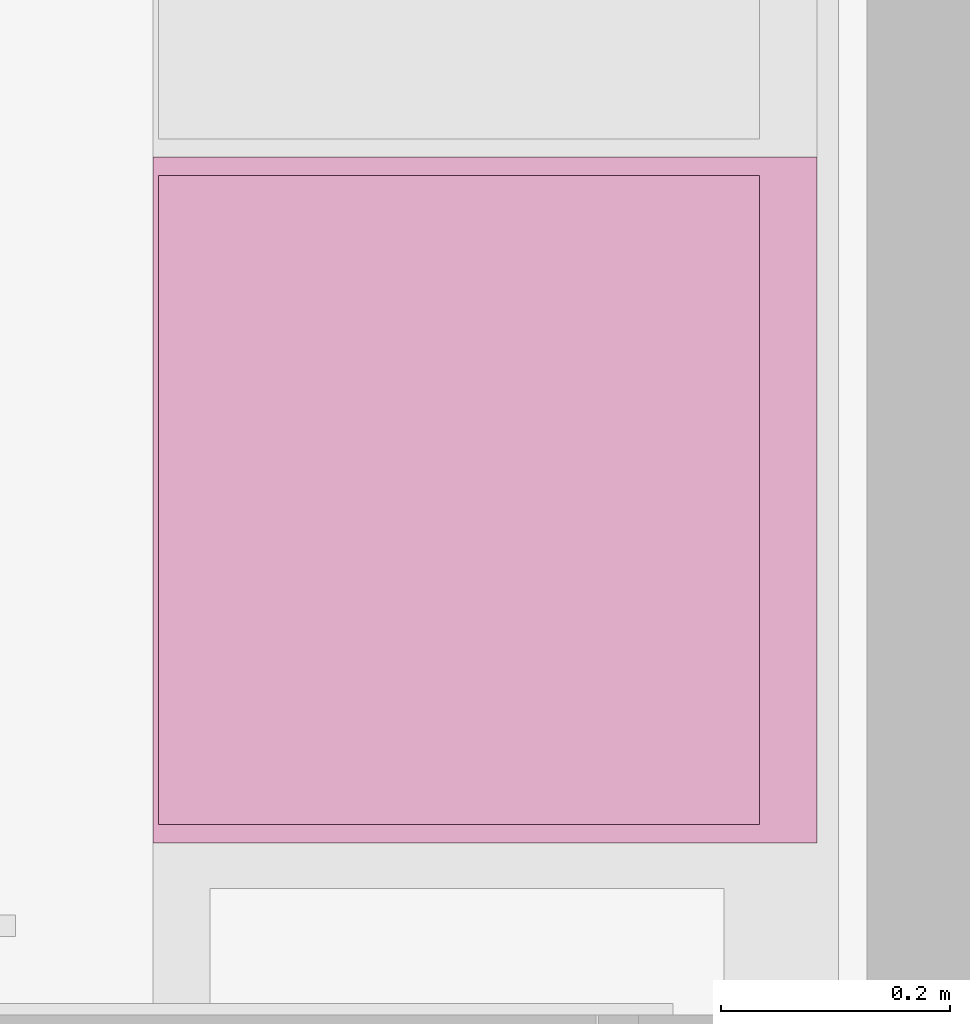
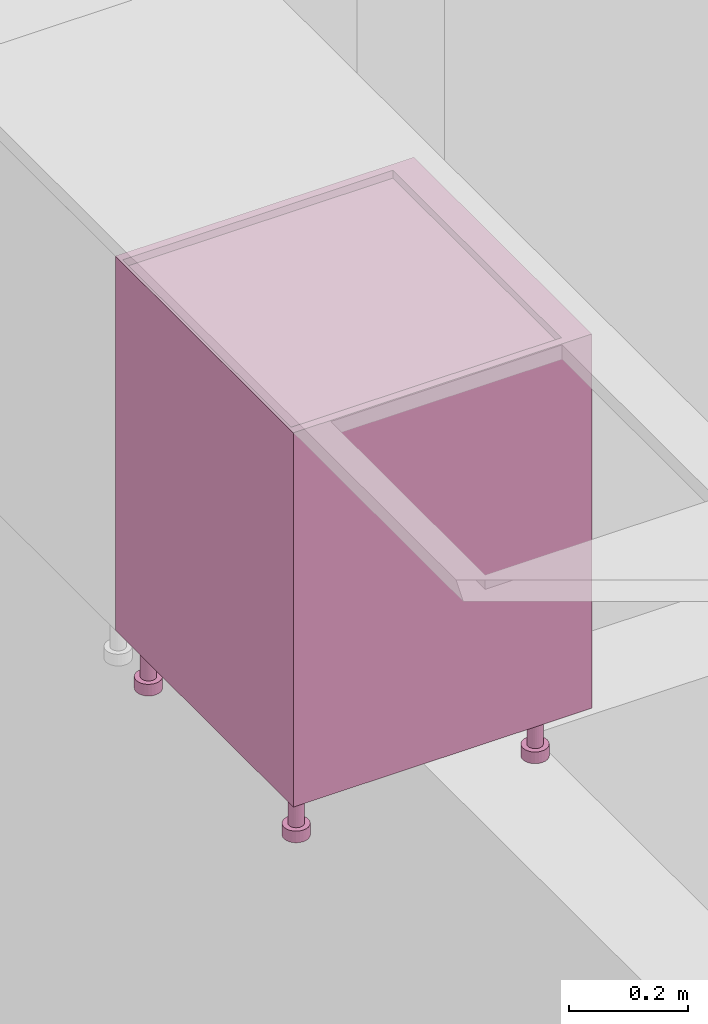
# One storey, part 26 of 68: 1 furnishing.
"""IFC2X3 building model written with IfcOpenShell, lengths in millimetres."""

from ifc_helpers import new_model, entity, si_unit, converted_unit, direction, frame, origin, place, context, subcontext, project, spatial, faceted_brep, source, transform, mapped, material, type_object, type_shapes, element, save


model = new_model("IFC2X3")

# Units and contexts
model_context = context("Model", 3, precision=0.01, world=origin(), true_north=direction((6.123233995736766e-17, 1.0)))
plan_context = context("Plan", 3, precision=0.01, world=origin(), true_north=direction((6.123233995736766e-17, 1.0)))
body_context = subcontext(model_context, "Body", "Model", "MODEL_VIEW")
ifc_project = project(units=[si_unit("LENGTHUNIT", "METRE", prefix="MILLI"), converted_unit("PLANEANGLEUNIT", "DEGREE", entity("IfcPlaneAngleMeasure", 0.017453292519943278), si_unit("PLANEANGLEUNIT", "RADIAN"), dimensions=[0, 0, 0, 0, 0, 0, 0]), si_unit("AREAUNIT", "SQUARE_METRE")], contexts=[model_context, plan_context])

# Site, building, storey, space
site_placement = place(None, origin())
site = spatial("IfcSite", under=ifc_project, at=site_placement, Name="Default", CompositionType="ELEMENT")
building_placement = place(site_placement, origin())
building = spatial("IfcBuilding", under=site, at=building_placement, CompositionType="ELEMENT")
storey_placement = place(building_placement, frame((0.0, 0.0, 6295.0)))
storey = spatial("IfcBuildingStorey", under=building, at=storey_placement, Name="3K", CompositionType="ELEMENT", Elevation=6294.999999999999)
space_placement = place(storey_placement, origin())
space = spatial("IfcSpace", under=storey, at=space_placement, Name="3-5.2", CompositionType="ELEMENT", InteriorOrExteriorSpace="INTERNAL")

# Furnishing
ifc_material = material(Name="<Unnamed>")
furniture_type = type_object("IfcFurnitureType", Name="HR_Casework_Kitchen_Generic_Appliance_v1:Dishwasher", AssemblyPlace="NOTDEFINED", material=ifc_material)
shared_shape = source(origin(), body_context, "Body", "Brep", [
    faceted_brep([(305.7003264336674, -585.7846096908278, -3101.0), (310.6708891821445, -581.9705627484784, -3101.0), (300.70032643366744, -577.1243556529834, -3101.0), (297.32379306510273, -578.5229615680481, -3101.0), (299.91198351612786, -588.1822198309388, -3101.0), (303.59982137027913, -574.8994949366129, -3101.0), (314.4849361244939, -577.0, -3101.0), (305.82468208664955, -572.0, -3101.0), (307.2232880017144, -568.6234666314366, -3101.0), (316.8825462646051, -571.2116570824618, -3101.0), (307.70032643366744, -565.0, -3101.0), (317.7003264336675, -565.0, -3101.0), (307.2232880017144, -561.3765333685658, -3101.0), (316.88254626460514, -558.7883429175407, -3101.0), (305.82468208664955, -558.0, -3101.0), (314.484936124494, -553.0, -3101.0), (303.59982137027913, -555.1005050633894, -3101.0), (310.67088918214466, -548.0294372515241, -3101.0), (300.70032643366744, -552.875644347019, -3101.0), (305.7003264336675, -544.2153903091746, -3101.0), (297.32379306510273, -551.4770384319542, -3101.0), (299.91198351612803, -541.8177801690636, -3101.0), (293.7003264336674, -551.0, -3101.0), (293.70032643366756, -541.0, -3101.0), (290.07685980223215, -551.4770384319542, -3101.0), (287.488669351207, -541.8177801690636, -3101.0), (286.70032643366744, -552.875644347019, -3101.0), (281.7003264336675, -544.2153903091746, -3101.0), (283.80083149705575, -555.1005050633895, -3101.0), (276.7297636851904, -548.029437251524, -3101.0), (281.5759707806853, -558.0, -3101.0), (272.91571674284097, -553.0, -3101.0), (270.51810660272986, -558.7883429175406, -3101.0), (280.1773648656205, -561.3765333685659, -3101.0), (269.7003264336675, -565.0, -3101.0), (279.7003264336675, -565.0, -3101.0), (270.51810660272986, -571.2116570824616, -3101.0), (280.1773648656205, -568.6234666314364, -3101.0), (272.9157167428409, -577.0, -3101.0), (281.57597078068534, -572.0, -3101.0), (276.7297636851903, -581.9705627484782, -3101.0), (283.80083149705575, -574.8994949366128, -3101.0), (281.70032643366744, -585.7846096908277, -3101.0), (286.70032643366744, -577.1243556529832, -3101.0), (287.4886693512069, -588.1822198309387, -3101.0), (290.07685980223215, -578.5229615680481, -3101.0), (293.7003264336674, -589.0, -3101.0), (293.70032643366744, -579.0, -3101.0), (299.91198351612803, -541.8177801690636, -3125.0), (305.7003264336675, -544.2153903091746, -3125.0), (310.67088918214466, -548.0294372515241, -3125.0), (314.484936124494, -553.0, -3125.0), (316.88254626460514, -558.7883429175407, -3125.0), (317.7003264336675, -565.0, -3125.0), (316.8825462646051, -571.2116570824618, -3125.0), (314.4849361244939, -577.0, -3125.0), (310.6708891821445, -581.9705627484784, -3125.0), (305.7003264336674, -585.7846096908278, -3125.0), (299.91198351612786, -588.1822198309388, -3125.0), (293.7003264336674, -589.0, -3125.0), (287.4886693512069, -588.1822198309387, -3125.0), (281.70032643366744, -585.7846096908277, -3125.0), (276.7297636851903, -581.9705627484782, -3125.0), (272.9157167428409, -577.0, -3125.0), (270.51810660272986, -571.2116570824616, -3125.0), (269.7003264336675, -565.0, -3125.0), (270.51810660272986, -558.7883429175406, -3125.0), (272.91571674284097, -553.0, -3125.0), (276.7297636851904, -548.029437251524, -3125.0), (281.7003264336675, -544.2153903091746, -3125.0), (287.488669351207, -541.8177801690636, -3125.0), (293.70032643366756, -541.0, -3125.0), (297.32379306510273, -578.5229615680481, -3025.0), (300.70032643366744, -577.1243556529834, -3025.0), (303.59982137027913, -574.8994949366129, -3025.0), (305.8246820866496, -572.0, -3025.0), (307.2232880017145, -568.6234666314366, -3025.0), (307.70032643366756, -565.0, -3025.0), (307.2232880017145, -561.3765333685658, -3025.0), (305.8246820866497, -558.0, -3025.0), (303.5998213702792, -555.1005050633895, -3025.0), (300.70032643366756, -552.875644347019, -3025.0), (297.32379306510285, -551.4770384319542, -3025.0), (293.70032643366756, -551.0, -3025.0), (290.07685980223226, -551.4770384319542, -3025.0), (286.70032643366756, -552.875644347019, -3025.0), (283.80083149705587, -555.1005050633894, -3025.0), (281.5759707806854, -558.0, -3025.0), (280.1773648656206, -561.3765333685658, -3025.0), (279.70032643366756, -565.0, -3025.0), (280.1773648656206, -568.6234666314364, -3025.0), (281.5759707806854, -572.0, -3025.0), (283.8008314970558, -574.8994949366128, -3025.0), (286.7003264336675, -577.1243556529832, -3025.0), (290.07685980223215, -578.5229615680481, -3025.0), (293.70032643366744, -579.0, -3025.0)], [[[0, 1, 2]], [[0, 2, 3]], [[3, 4, 0]], [[2, 1, 5]], [[6, 5, 1]], [[7, 5, 6]], [[8, 7, 6]], [[8, 6, 9]], [[8, 9, 10]], [[10, 9, 11]], [[12, 10, 11]], [[12, 11, 13]], [[14, 12, 13]], [[14, 13, 15]], [[16, 14, 15]], [[15, 17, 16]], [[17, 18, 16]], [[18, 17, 19]], [[18, 19, 20]], [[21, 20, 19]], [[20, 21, 22]], [[22, 21, 23]], [[23, 24, 22]], [[24, 23, 25]], [[24, 25, 26]], [[27, 26, 25]], [[27, 28, 26]], [[27, 29, 28]], [[30, 28, 29]], [[31, 30, 29]], [[32, 30, 31]], [[33, 30, 32]], [[33, 32, 34]], [[34, 35, 33]], [[36, 35, 34]], [[36, 37, 35]], [[37, 36, 38]], [[39, 37, 38]], [[39, 38, 40]], [[39, 40, 41]], [[40, 42, 41]], [[41, 42, 43]], [[43, 42, 44]], [[44, 45, 43]], [[46, 45, 44]], [[4, 47, 46]], [[45, 46, 47]], [[4, 3, 47]], [[48, 49, 50, 51, 52, 53, 54, 55, 56, 57, 58, 59, 60, 61, 62, 63, 64, 65, 66, 67, 68, 69, 70, 71]], [[64, 36, 34, 65]], [[63, 38, 36, 64]], [[42, 40, 62, 61]], [[63, 62, 40, 38]], [[44, 42, 61, 60]], [[46, 44, 60, 59]], [[58, 4, 46, 59]], [[57, 0, 4, 58]], [[54, 53, 11, 9]], [[1, 0, 57, 56]], [[6, 55, 54, 9]], [[6, 1, 56, 55]], [[52, 13, 11, 53]], [[51, 15, 13, 52]], [[19, 17, 50, 49]], [[51, 50, 17, 15]], [[21, 19, 49, 48]], [[23, 21, 48, 71]], [[27, 69, 68, 29]], [[31, 67, 66, 32]], [[68, 67, 31, 29]], [[32, 66, 65, 34]], [[25, 70, 69, 27]], [[70, 25, 23, 71]], [[72, 73, 74, 75, 76, 77, 78, 79, 80, 81, 82, 83, 84, 85, 86, 87, 88, 89, 90, 91, 92, 93, 94, 95]], [[37, 39, 91, 90]], [[35, 37, 90, 89]], [[43, 45, 94, 93]], [[41, 43, 93, 92]], [[39, 41, 92, 91]], [[47, 95, 94, 45]], [[2, 5, 74, 73]], [[3, 2, 73, 72]], [[8, 10, 77, 76]], [[7, 8, 76, 75]], [[5, 7, 75, 74]], [[3, 72, 95, 47]], [[79, 78, 12, 14]], [[78, 77, 10, 12]], [[80, 16, 18, 81]], [[16, 80, 79, 14]], [[81, 18, 20, 82]], [[22, 83, 82, 20]], [[26, 28, 86, 85]], [[24, 26, 85, 84]], [[33, 35, 89, 88]], [[30, 33, 88, 87]], [[28, 30, 87, 86]], [[24, 84, 83, 22]]]),
    faceted_brep([(-192.29967356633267, -585.7846096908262, -3101.0), (-187.3291108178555, -581.9705627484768, -3101.0), (-197.29967356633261, -577.1243556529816, -3101.0), (-200.67620693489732, -578.5229615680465, -3101.0), (-198.08801648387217, -588.1822198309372, -3101.0), (-194.40017862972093, -574.8994949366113, -3101.0), (-183.51506387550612, -577.0, -3101.0), (-192.17531791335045, -572.0, -3101.0), (-190.77671199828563, -568.6234666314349, -3101.0), (-181.11745373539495, -571.2116570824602, -3101.0), (-190.29967356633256, -565.0, -3101.0), (-180.29967356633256, -565.0, -3101.0), (-190.77671199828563, -561.3765333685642, -3101.0), (-181.11745373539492, -558.788342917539, -3101.0), (-192.17531791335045, -558.0, -3101.0), (-183.515063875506, -553.0, -3101.0), (-194.40017862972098, -555.1005050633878, -3101.0), (-187.3291108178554, -548.0294372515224, -3101.0), (-197.29967356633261, -552.8756443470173, -3101.0), (-192.29967356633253, -544.215390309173, -3101.0), (-200.67620693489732, -551.4770384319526, -3101.0), (-198.08801648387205, -541.8177801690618, -3101.0), (-204.29967356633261, -551.0, -3101.0), (-204.29967356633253, -541.0, -3101.0), (-207.92314019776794, -551.4770384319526, -3101.0), (-210.51133064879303, -541.8177801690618, -3101.0), (-211.29967356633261, -552.8756443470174, -3101.0), (-216.29967356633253, -544.215390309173, -3101.0), (-214.19916850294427, -555.1005050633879, -3101.0), (-221.27023631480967, -548.0294372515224, -3101.0), (-216.42402921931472, -558.0, -3101.0), (-225.08428325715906, -553.0, -3101.0), (-227.48189339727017, -558.788342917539, -3101.0), (-217.8226351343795, -561.3765333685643, -3101.0), (-228.2996735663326, -565.0, -3101.0), (-218.29967356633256, -565.0, -3101.0), (-227.48189339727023, -571.21165708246, -3101.0), (-217.8226351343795, -568.6234666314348, -3101.0), (-225.08428325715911, -577.0, -3101.0), (-216.42402921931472, -572.0, -3101.0), (-221.27023631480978, -581.9705627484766, -3101.0), (-214.19916850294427, -574.8994949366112, -3101.0), (-216.29967356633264, -585.784609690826, -3101.0), (-211.29967356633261, -577.1243556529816, -3101.0), (-210.51133064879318, -588.1822198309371, -3101.0), (-207.9231401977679, -578.5229615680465, -3101.0), (-204.2996735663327, -589.0, -3101.0), (-204.29967356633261, -579.0, -3101.0), (-198.08801648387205, -541.8177801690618, -3125.0), (-192.29967356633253, -544.215390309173, -3125.0), (-187.3291108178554, -548.0294372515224, -3125.0), (-183.515063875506, -553.0, -3125.0), (-181.11745373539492, -558.788342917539, -3125.0), (-180.29967356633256, -565.0, -3125.0), (-181.11745373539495, -571.2116570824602, -3125.0), (-183.51506387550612, -577.0, -3125.0), (-187.3291108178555, -581.9705627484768, -3125.0), (-192.29967356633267, -585.7846096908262, -3125.0), (-198.08801648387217, -588.1822198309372, -3125.0), (-204.2996735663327, -589.0, -3125.0), (-210.51133064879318, -588.1822198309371, -3125.0), (-216.29967356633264, -585.784609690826, -3125.0), (-221.27023631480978, -581.9705627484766, -3125.0), (-225.08428325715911, -577.0, -3125.0), (-227.48189339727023, -571.21165708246, -3125.0), (-228.2996735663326, -565.0, -3125.0), (-227.48189339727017, -558.788342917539, -3125.0), (-225.08428325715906, -553.0, -3125.0), (-221.27023631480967, -548.0294372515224, -3125.0), (-216.29967356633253, -544.215390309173, -3125.0), (-210.51133064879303, -541.8177801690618, -3125.0), (-204.29967356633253, -541.0, -3125.0), (-200.67620693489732, -578.5229615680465, -3025.0), (-197.29967356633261, -577.1243556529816, -3025.0), (-194.40017862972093, -574.8994949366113, -3025.0), (-192.17531791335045, -572.0, -3025.0), (-190.77671199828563, -568.6234666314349, -3025.0), (-190.29967356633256, -565.0, -3025.0), (-190.77671199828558, -561.3765333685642, -3025.0), (-192.1753179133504, -558.0, -3025.0), (-194.40017862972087, -555.1005050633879, -3025.0), (-197.29967356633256, -552.8756443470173, -3025.0), (-200.67620693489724, -551.4770384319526, -3025.0), (-204.29967356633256, -551.0, -3025.0), (-207.92314019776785, -551.4770384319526, -3025.0), (-211.29967356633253, -552.8756443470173, -3025.0), (-214.1991685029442, -555.1005050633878, -3025.0), (-216.4240292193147, -558.0, -3025.0), (-217.8226351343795, -561.3765333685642, -3025.0), (-218.29967356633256, -565.0, -3025.0), (-217.8226351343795, -568.6234666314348, -3025.0), (-216.42402921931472, -572.0, -3025.0), (-214.19916850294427, -574.8994949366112, -3025.0), (-211.2996735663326, -577.1243556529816, -3025.0), (-207.9231401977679, -578.5229615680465, -3025.0), (-204.29967356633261, -579.0, -3025.0)], [[[0, 1, 2]], [[0, 2, 3]], [[3, 4, 0]], [[2, 1, 5]], [[6, 5, 1]], [[7, 5, 6]], [[8, 7, 6]], [[8, 6, 9]], [[8, 9, 10]], [[10, 9, 11]], [[12, 10, 11]], [[12, 11, 13]], [[14, 12, 13]], [[14, 13, 15]], [[16, 14, 15]], [[15, 17, 16]], [[17, 18, 16]], [[18, 17, 19]], [[18, 19, 20]], [[21, 20, 19]], [[20, 21, 22]], [[22, 21, 23]], [[23, 24, 22]], [[24, 23, 25]], [[24, 25, 26]], [[27, 26, 25]], [[27, 28, 26]], [[27, 29, 28]], [[30, 28, 29]], [[31, 30, 29]], [[32, 30, 31]], [[33, 30, 32]], [[33, 32, 34]], [[34, 35, 33]], [[36, 35, 34]], [[36, 37, 35]], [[37, 36, 38]], [[39, 37, 38]], [[39, 38, 40]], [[39, 40, 41]], [[40, 42, 41]], [[41, 42, 43]], [[43, 42, 44]], [[44, 45, 43]], [[46, 45, 44]], [[4, 47, 46]], [[45, 46, 47]], [[4, 3, 47]], [[48, 49, 50, 51, 52, 53, 54, 55, 56, 57, 58, 59, 60, 61, 62, 63, 64, 65, 66, 67, 68, 69, 70, 71]], [[64, 36, 34, 65]], [[63, 38, 36, 64]], [[42, 40, 62, 61]], [[63, 62, 40, 38]], [[44, 42, 61, 60]], [[46, 44, 60, 59]], [[58, 4, 46, 59]], [[57, 0, 4, 58]], [[54, 53, 11, 9]], [[1, 0, 57, 56]], [[6, 55, 54, 9]], [[6, 1, 56, 55]], [[52, 13, 11, 53]], [[51, 15, 13, 52]], [[19, 17, 50, 49]], [[51, 50, 17, 15]], [[21, 19, 49, 48]], [[23, 21, 48, 71]], [[27, 69, 68, 29]], [[31, 67, 66, 32]], [[68, 67, 31, 29]], [[32, 66, 65, 34]], [[25, 70, 69, 27]], [[70, 25, 23, 71]], [[72, 73, 74, 75, 76, 77, 78, 79, 80, 81, 82, 83, 84, 85, 86, 87, 88, 89, 90, 91, 92, 93, 94, 95]], [[37, 39, 91, 90]], [[35, 37, 90, 89]], [[43, 45, 94, 93]], [[41, 43, 93, 92]], [[39, 41, 92, 91]], [[47, 95, 94, 45]], [[2, 5, 74, 73]], [[3, 2, 73, 72]], [[8, 10, 77, 76]], [[7, 8, 76, 75]], [[5, 7, 75, 74]], [[3, 72, 95, 47]], [[79, 78, 12, 14]], [[78, 77, 10, 12]], [[80, 16, 18, 81]], [[16, 80, 79, 14]], [[81, 18, 20, 82]], [[22, 83, 82, 20]], [[26, 28, 86, 85]], [[24, 26, 85, 84]], [[33, 35, 89, 88]], [[30, 33, 88, 87]], [[28, 30, 87, 86]], [[24, 84, 83, 22]]]),
    faceted_brep([(305.70032643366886, -120.78460969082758, -3101.0), (310.670889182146, -116.97056274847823, -3101.0), (300.7003264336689, -112.12435565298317, -3101.0), (297.3237930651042, -113.52296156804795, -3101.0), (299.91198351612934, -123.18221983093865, -3101.0), (303.5998213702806, -109.8994949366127, -3101.0), (314.48493612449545, -112.0, -3101.0), (305.824682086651, -107.0, -3101.0), (307.2232880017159, -103.62346663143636, -3101.0), (316.88254626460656, -106.21165708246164, -3101.0), (307.700326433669, -100.0, -3101.0), (317.700326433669, -100.0, -3101.0), (307.2232880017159, -96.3765333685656, -3101.0), (316.8825462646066, -93.78834291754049, -3101.0), (305.824682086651, -93.0, -3101.0), (314.4849361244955, -88.0, -3101.0), (303.5998213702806, -90.10050506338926, -3101.0), (310.67088918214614, -83.02943725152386, -3101.0), (300.7003264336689, -87.8756443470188, -3101.0), (305.700326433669, -79.21539030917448, -3101.0), (297.3237930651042, -86.477038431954, -3101.0), (299.9119835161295, -76.81778016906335, -3101.0), (293.70032643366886, -86.0, -3101.0), (293.70032643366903, -76.0, -3101.0), (290.0768598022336, -86.47703843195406, -3101.0), (287.4886693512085, -76.81778016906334, -3101.0), (286.7003264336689, -87.87564434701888, -3101.0), (281.700326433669, -79.21539030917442, -3101.0), (283.8008314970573, -90.10050506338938, -3101.0), (276.72976368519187, -83.0294372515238, -3101.0), (281.5759707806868, -93.0, -3101.0), (272.91571674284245, -88.0, -3101.0), (270.51810660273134, -93.78834291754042, -3101.0), (280.177364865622, -96.37653336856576, -3101.0), (269.700326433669, -100.0, -3101.0), (279.700326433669, -100.0, -3101.0), (270.51810660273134, -106.2116570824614, -3101.0), (280.177364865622, -103.62346663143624, -3101.0), (272.9157167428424, -112.0, -3101.0), (281.5759707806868, -107.0, -3101.0), (276.72976368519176, -116.97056274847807, -3101.0), (283.8008314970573, -109.89949493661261, -3101.0), (281.7003264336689, -120.78460969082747, -3101.0), (286.7003264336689, -112.1243556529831, -3101.0), (287.4886693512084, -123.1822198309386, -3101.0), (290.0768598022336, -113.52296156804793, -3101.0), (293.70032643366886, -124.0, -3101.0), (293.7003264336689, -114.0, -3101.0), (299.9119835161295, -76.81778016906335, -3125.0), (305.700326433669, -79.21539030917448, -3125.0), (310.67088918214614, -83.02943725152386, -3125.0), (314.4849361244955, -88.0, -3125.0), (316.8825462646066, -93.78834291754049, -3125.0), (317.700326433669, -100.0, -3125.0), (316.88254626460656, -106.21165708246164, -3125.0), (314.48493612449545, -112.0, -3125.0), (310.670889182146, -116.97056274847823, -3125.0), (305.70032643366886, -120.78460969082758, -3125.0), (299.91198351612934, -123.18221983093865, -3125.0), (293.70032643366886, -124.0, -3125.0), (287.4886693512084, -123.1822198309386, -3125.0), (281.7003264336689, -120.78460969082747, -3125.0), (276.72976368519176, -116.97056274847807, -3125.0), (272.9157167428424, -112.0, -3125.0), (270.51810660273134, -106.2116570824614, -3125.0), (269.700326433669, -100.0, -3125.0), (270.51810660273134, -93.78834291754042, -3125.0), (272.91571674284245, -88.0, -3125.0), (276.72976368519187, -83.0294372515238, -3125.0), (281.700326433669, -79.21539030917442, -3125.0), (287.4886693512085, -76.81778016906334, -3125.0), (293.70032643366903, -76.0, -3125.0), (297.32379306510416, -113.52296156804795, -3025.0), (300.70032643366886, -112.12435565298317, -3025.0), (303.59982137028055, -109.8994949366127, -3025.0), (305.824682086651, -107.0, -3025.0), (307.22328800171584, -103.62346663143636, -3025.0), (307.700326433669, -100.0, -3025.0), (307.2232880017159, -96.3765333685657, -3025.0), (305.82468208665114, -93.0, -3025.0), (303.5998213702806, -90.10050506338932, -3025.0), (300.700326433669, -87.87564434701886, -3025.0), (297.32379306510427, -86.47703843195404, -3025.0), (293.700326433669, -86.0, -3025.0), (290.0768598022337, -86.47703843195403, -3025.0), (286.700326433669, -87.87564434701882, -3025.0), (283.8008314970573, -90.1005050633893, -3025.0), (281.5759707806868, -93.0, -3025.0), (280.177364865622, -96.37653336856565, -3025.0), (279.700326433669, -100.0, -3025.0), (280.177364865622, -103.62346663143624, -3025.0), (281.5759707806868, -107.0, -3025.0), (283.80083149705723, -109.89949493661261, -3025.0), (286.7003264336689, -112.1243556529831, -3025.0), (290.07685980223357, -113.52296156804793, -3025.0), (293.70032643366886, -114.0, -3025.0)], [[[0, 1, 2]], [[0, 2, 3]], [[3, 4, 0]], [[2, 1, 5]], [[6, 5, 1]], [[7, 5, 6]], [[8, 7, 6]], [[8, 6, 9]], [[8, 9, 10]], [[10, 9, 11]], [[12, 10, 11]], [[12, 11, 13]], [[14, 12, 13]], [[14, 13, 15]], [[16, 14, 15]], [[15, 17, 16]], [[17, 18, 16]], [[18, 17, 19]], [[18, 19, 20]], [[21, 20, 19]], [[20, 21, 22]], [[22, 21, 23]], [[23, 24, 22]], [[24, 23, 25]], [[24, 25, 26]], [[27, 26, 25]], [[27, 28, 26]], [[27, 29, 28]], [[30, 28, 29]], [[31, 30, 29]], [[32, 30, 31]], [[33, 30, 32]], [[33, 32, 34]], [[34, 35, 33]], [[36, 35, 34]], [[36, 37, 35]], [[37, 36, 38]], [[39, 37, 38]], [[39, 38, 40]], [[39, 40, 41]], [[40, 42, 41]], [[41, 42, 43]], [[43, 42, 44]], [[44, 45, 43]], [[46, 45, 44]], [[4, 47, 46]], [[45, 46, 47]], [[4, 3, 47]], [[48, 49, 50, 51, 52, 53, 54, 55, 56, 57, 58, 59, 60, 61, 62, 63, 64, 65, 66, 67, 68, 69, 70, 71]], [[64, 36, 34, 65]], [[63, 38, 36, 64]], [[42, 40, 62, 61]], [[63, 62, 40, 38]], [[44, 42, 61, 60]], [[46, 44, 60, 59]], [[58, 4, 46, 59]], [[57, 0, 4, 58]], [[54, 53, 11, 9]], [[1, 0, 57, 56]], [[6, 55, 54, 9]], [[6, 1, 56, 55]], [[52, 13, 11, 53]], [[51, 15, 13, 52]], [[19, 17, 50, 49]], [[51, 50, 17, 15]], [[21, 19, 49, 48]], [[23, 21, 48, 71]], [[27, 69, 68, 29]], [[31, 67, 66, 32]], [[68, 67, 31, 29]], [[32, 66, 65, 34]], [[25, 70, 69, 27]], [[70, 25, 23, 71]], [[72, 73, 74, 75, 76, 77, 78, 79, 80, 81, 82, 83, 84, 85, 86, 87, 88, 89, 90, 91, 92, 93, 94, 95]], [[37, 39, 91, 90]], [[35, 37, 90, 89]], [[43, 45, 94, 93]], [[41, 43, 93, 92]], [[39, 41, 92, 91]], [[47, 95, 94, 45]], [[2, 5, 74, 73]], [[3, 2, 73, 72]], [[8, 10, 77, 76]], [[7, 8, 76, 75]], [[5, 7, 75, 74]], [[3, 72, 95, 47]], [[79, 78, 12, 14]], [[78, 77, 10, 12]], [[80, 16, 18, 81]], [[16, 80, 79, 14]], [[81, 18, 20, 82]], [[22, 83, 82, 20]], [[26, 28, 86, 85]], [[24, 26, 85, 84]], [[33, 35, 89, 88]], [[30, 33, 88, 87]], [[28, 30, 87, 86]], [[24, 84, 83, 22]]]),
    faceted_brep([(-192.299673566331, -120.78460969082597, -3101.0), (-187.3291108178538, -116.97056274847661, -3101.0), (-197.29967356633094, -112.12435565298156, -3101.0), (-200.67620693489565, -113.52296156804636, -3101.0), (-198.0880164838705, -123.18221983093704, -3101.0), (-194.40017862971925, -109.89949493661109, -3101.0), (-183.5150638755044, -112.0, -3101.0), (-192.17531791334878, -107.0, -3101.0), (-190.77671199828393, -103.62346663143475, -3101.0), (-181.11745373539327, -106.21165708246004, -3101.0), (-190.29967356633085, -100.0, -3101.0), (-180.29967356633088, -100.0, -3101.0), (-190.77671199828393, -96.376533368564, -3101.0), (-181.11745373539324, -93.78834291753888, -3101.0), (-192.17531791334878, -93.0, -3101.0), (-183.51506387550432, -88.0, -3101.0), (-194.40017862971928, -90.10050506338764, -3101.0), (-187.32911081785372, -83.02943725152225, -3101.0), (-197.29967356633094, -87.8756443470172, -3101.0), (-192.29967356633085, -79.21539030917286, -3101.0), (-200.67620693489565, -86.4770384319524, -3101.0), (-198.08801648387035, -76.81778016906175, -3101.0), (-204.29967356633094, -86.0, -3101.0), (-204.29967356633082, -76.0, -3101.0), (-207.92314019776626, -86.47703843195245, -3101.0), (-210.51133064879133, -76.81778016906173, -3101.0), (-211.29967356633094, -87.87564434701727, -3101.0), (-216.29967356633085, -79.21539030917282, -3101.0), (-214.19916850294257, -90.10050506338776, -3101.0), (-221.270236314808, -83.0294372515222, -3101.0), (-216.424029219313, -93.0, -3101.0), (-225.08428325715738, -88.0, -3101.0), (-227.4818933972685, -93.78834291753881, -3101.0), (-217.82263513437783, -96.37653336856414, -3101.0), (-228.29967356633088, -100.0, -3101.0), (-218.29967356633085, -100.0, -3101.0), (-227.48189339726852, -106.2116570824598, -3101.0), (-217.82263513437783, -103.62346663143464, -3101.0), (-225.08428325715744, -112.0, -3101.0), (-216.424029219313, -107.0, -3101.0), (-221.27023631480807, -116.97056274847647, -3101.0), (-214.19916850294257, -109.899494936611, -3101.0), (-216.29967356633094, -120.78460969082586, -3101.0), (-211.29967356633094, -112.12435565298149, -3101.0), (-210.51133064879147, -123.18221983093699, -3101.0), (-207.9231401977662, -113.52296156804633, -3101.0), (-204.299673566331, -124.0, -3101.0), (-204.29967356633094, -114.0, -3101.0), (-198.08801648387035, -76.81778016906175, -3125.0), (-192.29967356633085, -79.21539030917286, -3125.0), (-187.32911081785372, -83.02943725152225, -3125.0), (-183.51506387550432, -88.0, -3125.0), (-181.11745373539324, -93.78834291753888, -3125.0), (-180.29967356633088, -100.0, -3125.0), (-181.11745373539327, -106.21165708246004, -3125.0), (-183.5150638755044, -112.0, -3125.0), (-187.3291108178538, -116.97056274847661, -3125.0), (-192.299673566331, -120.78460969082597, -3125.0), (-198.0880164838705, -123.18221983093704, -3125.0), (-204.299673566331, -124.0, -3125.0), (-210.51133064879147, -123.18221983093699, -3125.0), (-216.29967356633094, -120.78460969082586, -3125.0), (-221.27023631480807, -116.97056274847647, -3125.0), (-225.08428325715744, -112.0, -3125.0), (-227.48189339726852, -106.2116570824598, -3125.0), (-228.29967356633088, -100.0, -3125.0), (-227.4818933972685, -93.78834291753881, -3125.0), (-225.08428325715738, -88.0, -3125.0), (-221.270236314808, -83.0294372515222, -3125.0), (-216.29967356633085, -79.21539030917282, -3125.0), (-210.51133064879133, -76.81778016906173, -3125.0), (-204.29967356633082, -76.0, -3125.0), (-200.67620693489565, -113.52296156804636, -3025.0), (-197.29967356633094, -112.12435565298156, -3025.0), (-194.40017862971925, -109.89949493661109, -3025.0), (-192.17531791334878, -107.0, -3025.0), (-190.77671199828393, -103.62346663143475, -3025.0), (-190.29967356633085, -100.0, -3025.0), (-190.7767119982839, -96.3765333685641, -3025.0), (-192.1753179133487, -93.0, -3025.0), (-194.4001786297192, -90.10050506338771, -3025.0), (-197.29967356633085, -87.87564434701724, -3025.0), (-200.67620693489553, -86.47703843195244, -3025.0), (-204.29967356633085, -86.0, -3025.0), (-207.92314019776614, -86.47703843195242, -3025.0), (-211.29967356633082, -87.87564434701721, -3025.0), (-214.1991685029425, -90.10050506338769, -3025.0), (-216.42402921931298, -93.0, -3025.0), (-217.82263513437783, -96.37653336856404, -3025.0), (-218.29967356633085, -100.0, -3025.0), (-217.82263513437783, -103.62346663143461, -3025.0), (-216.424029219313, -107.0, -3025.0), (-214.19916850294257, -109.899494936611, -3025.0), (-211.29967356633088, -112.12435565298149, -3025.0), (-207.9231401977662, -113.52296156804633, -3025.0), (-204.29967356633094, -114.0, -3025.0)], [[[0, 1, 2]], [[0, 2, 3]], [[3, 4, 0]], [[2, 1, 5]], [[6, 5, 1]], [[7, 5, 6]], [[8, 7, 6]], [[8, 6, 9]], [[8, 9, 10]], [[10, 9, 11]], [[12, 10, 11]], [[12, 11, 13]], [[14, 12, 13]], [[14, 13, 15]], [[16, 14, 15]], [[15, 17, 16]], [[17, 18, 16]], [[18, 17, 19]], [[18, 19, 20]], [[21, 20, 19]], [[20, 21, 22]], [[22, 21, 23]], [[23, 24, 22]], [[24, 23, 25]], [[24, 25, 26]], [[27, 26, 25]], [[27, 28, 26]], [[27, 29, 28]], [[30, 28, 29]], [[31, 30, 29]], [[32, 30, 31]], [[33, 30, 32]], [[33, 32, 34]], [[34, 35, 33]], [[36, 35, 34]], [[36, 37, 35]], [[37, 36, 38]], [[39, 37, 38]], [[39, 38, 40]], [[39, 40, 41]], [[40, 42, 41]], [[41, 42, 43]], [[43, 42, 44]], [[44, 45, 43]], [[46, 45, 44]], [[4, 47, 46]], [[45, 46, 47]], [[4, 3, 47]], [[48, 49, 50, 51, 52, 53, 54, 55, 56, 57, 58, 59, 60, 61, 62, 63, 64, 65, 66, 67, 68, 69, 70, 71]], [[64, 36, 34, 65]], [[63, 38, 36, 64]], [[42, 40, 62, 61]], [[63, 62, 40, 38]], [[44, 42, 61, 60]], [[46, 44, 60, 59]], [[58, 4, 46, 59]], [[57, 0, 4, 58]], [[54, 53, 11, 9]], [[1, 0, 57, 56]], [[6, 55, 54, 9]], [[6, 1, 56, 55]], [[52, 13, 11, 53]], [[51, 15, 13, 52]], [[19, 17, 50, 49]], [[51, 50, 17, 15]], [[21, 19, 49, 48]], [[23, 21, 48, 71]], [[27, 69, 68, 29]], [[31, 67, 66, 32]], [[68, 67, 31, 29]], [[32, 66, 65, 34]], [[25, 70, 69, 27]], [[70, 25, 23, 71]], [[72, 73, 74, 75, 76, 77, 78, 79, 80, 81, 82, 83, 84, 85, 86, 87, 88, 89, 90, 91, 92, 93, 94, 95]], [[37, 39, 91, 90]], [[35, 37, 90, 89]], [[43, 45, 94, 93]], [[41, 43, 93, 92]], [[39, 41, 92, 91]], [[47, 95, 94, 45]], [[2, 5, 74, 73]], [[3, 2, 73, 72]], [[8, 10, 77, 76]], [[7, 8, 76, 75]], [[5, 7, 75, 74]], [[3, 72, 95, 47]], [[79, 78, 12, 14]], [[78, 77, 10, 12]], [[80, 16, 18, 81]], [[16, 80, 79, 14]], [[81, 18, 20, 82]], [[22, 83, 82, 20]], [[26, 28, 86, 85]], [[24, 26, 85, 84]], [[33, 35, 89, 88]], [[30, 33, 88, 87]], [[28, 30, 87, 86]], [[24, 84, 83, 22]]]),
    faceted_brep([(328.70032643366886, -19.0, -3009.0), (-239.2996735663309, -19.0, -3009.0), (-239.29967356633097, -595.0, -3009.0), (328.70032643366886, -595.0, -3009.0), (328.70032643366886, -19.0, -3025.0), (328.70032643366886, -595.0, -3025.0), (-239.29967356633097, -595.0, -3025.0), (-239.29967356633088, -19.0, -3025.0)], [[[0, 1, 2, 3]], [[4, 5, 6, 7]], [[1, 0, 4, 7]], [[2, 1, 7, 6]], [[3, 2, 6, 5]], [[0, 3, 5, 4]]]),
    faceted_brep([(-255.29967356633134, -19.0, -2255.0), (-255.2996735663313, -600.0, -2255.0), (344.7003264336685, -600.0, -2255.0), (344.7003264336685, -19.0, -2255.0), (328.70032643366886, -19.0, -2255.0), (328.70032643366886, -595.0, -2255.0), (-239.2996735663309, -595.0, -2255.0), (-239.2996735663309, -19.0, -2255.0), (-255.29967356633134, -19.0, -3025.0), (-239.2996735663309, -19.0, -3025.0), (-239.29967356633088, -595.0, -3025.0), (328.70032643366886, -595.0, -3025.0), (328.70032643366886, -19.0, -3025.0), (344.7003264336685, -19.0, -3025.0), (344.7003264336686, -600.0, -3025.0), (-255.2996735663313, -600.0, -3025.0)], [[[0, 1, 2, 3, 4, 5, 6, 7]], [[8, 9, 10, 11, 12, 13, 14, 15]], [[1, 0, 8, 15]], [[0, 7, 9, 8]], [[7, 6, 10, 9]], [[5, 4, 12, 11]], [[4, 3, 13, 12]], [[3, 2, 14, 13]], [[2, 1, 15, 14]], [[6, 5, 11, 10]]]),
    faceted_brep([(328.70032643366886, -69.0, -2255.0), (328.70032643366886, -19.0, -2255.0), (-239.29967356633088, -19.0, -2255.0), (-239.29967356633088, -69.0, -2255.0), (328.70032643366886, -69.0, -2271.0), (-239.29967356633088, -69.0, -2271.0), (-239.29967356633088, -19.0, -2271.0), (328.70032643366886, -19.0, -2271.0)], [[[0, 1, 2, 3]], [[4, 5, 6, 7]], [[0, 3, 5, 4]], [[3, 2, 6, 5]], [[2, 1, 7, 6]], [[1, 0, 4, 7]]]),
    faceted_brep([(328.7003264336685, -19.0, -2271.0), (-239.29967356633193, -19.0, -2271.0), (-239.2996735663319, -595.0, -2271.0), (328.7003264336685, -595.0, -2271.0), (328.7003264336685, -19.0, -3009.0), (328.7003264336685, -595.0, -3009.0), (-239.2996735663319, -595.0, -3009.0), (-239.2996735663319, -19.0, -3009.0)], [[[0, 1, 2, 3]], [[4, 5, 6, 7]], [[1, 0, 4, 7]], [[2, 1, 7, 6]], [[3, 2, 6, 5]], [[0, 3, 5, 4]]]),
])
type_shapes(furniture_type, [shared_shape])
furnishing_placement = place(space_placement, frame((3120.0, 9293.200285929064, 6295.000076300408), z_axis=(0.0, 0.0, 1.0), x_axis=(0.0, -1.0, 0.0)))
element("IfcFurnishingElement", 1, at=furnishing_placement, inside=space, type_object=furniture_type, material=ifc_material, Name="HR_Casework_Kitchen_Generic_Appliance_v1:Dishwasher", ObjectType="HR_Casework_Kitchen_Generic_Appliance_v1:Dishwasher", context=body_context, shape_type="MappedRepresentation", body=[
    mapped(shared_shape, transform((0.0, 0.0, 0.0), scale=1.0)),
])

save(model, "model.ifc")
